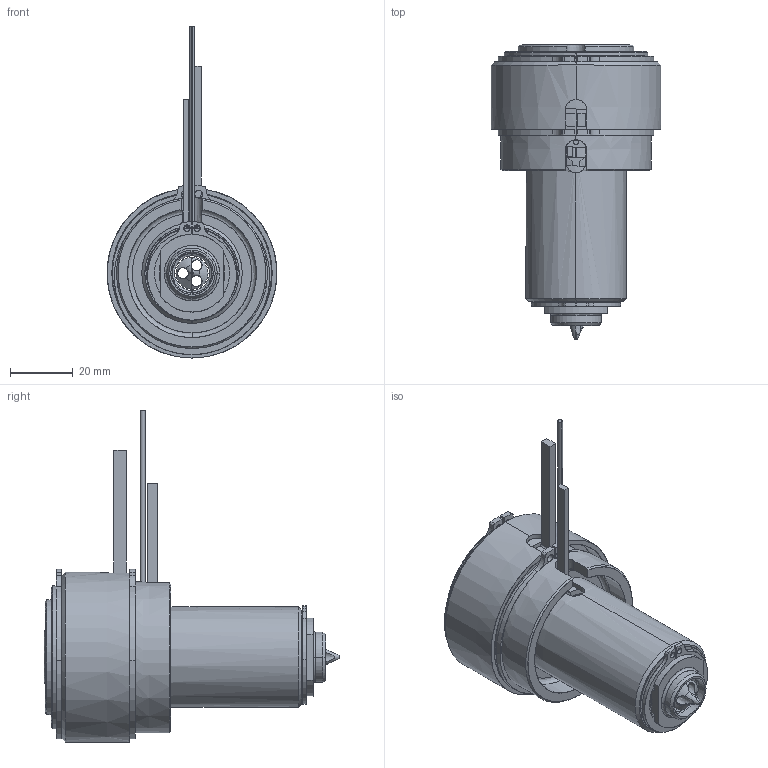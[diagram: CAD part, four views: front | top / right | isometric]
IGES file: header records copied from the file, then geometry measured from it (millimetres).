
Start section: SolidWorks IGES file using analytic representation for surfaces
Global section: file name: C:\Documents and Settings\ws-20\Desktop\TEM\UGEP5501-M-A-0 [Øf-0.80 ØC-13].IGS; native system: SolidWorks 2012; preprocessor: SolidWorks 2012; author: ws-20; date: 120427.081204; units: millimetre
Bounding box: 54 x 94.05 x 105.65 mm (x, y, z)
Surface area: 47570.7 mm2 (no closed solid volume)
Topology: 0 solids, 0 shells, 184 faces, 3686 edges, 3686 vertices
Faces by surface type: revolution 116, bspline 68
